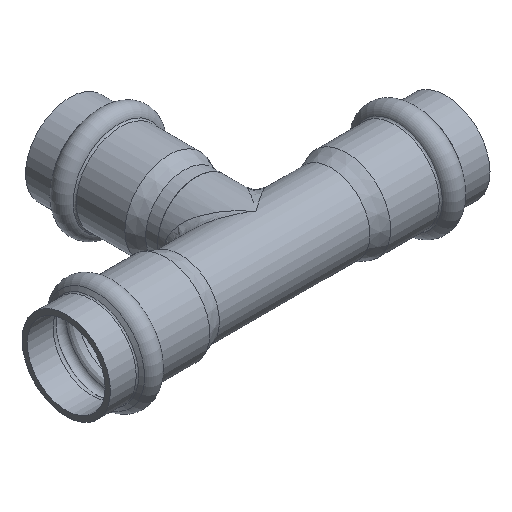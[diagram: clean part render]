
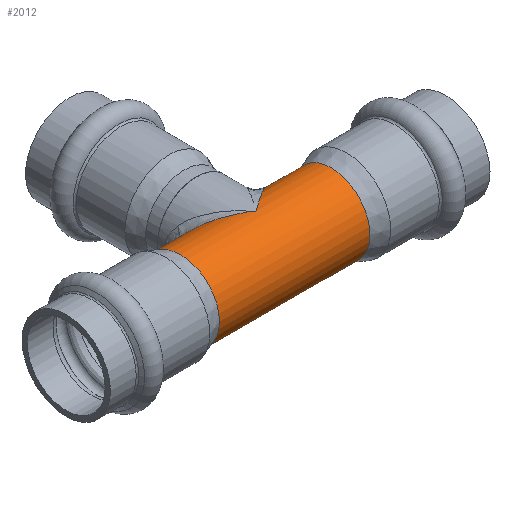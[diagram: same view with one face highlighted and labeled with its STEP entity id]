
A CAD part, isometric view. The second image highlights one B-rep face of the part: STEP entity #2012.
In plain terms, the highlighted cylindrical face has radius 11 mm (diameter 22 mm), a full revolution.
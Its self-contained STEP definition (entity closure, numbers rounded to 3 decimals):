
#1707=CARTESIAN_POINT('',(0.0,0.0,11.0));
#1708=VERTEX_POINT('',#1707);
#1709=CARTESIAN_POINT('',(0.0,0.0,-11.0));
#1710=VERTEX_POINT('',#1709);
#1711=CARTESIAN_POINT('',(0.0,0.0,0.0));
#1712=DIRECTION('',(-0.591,0.806,0.));
#1713=DIRECTION('',(0.806,0.591,0.0));
#1714=AXIS2_PLACEMENT_3D('',#1711,#1712,#1713);
#1715=ELLIPSE('',#1714,18.601,11.);
#1716=EDGE_CURVE('',#1708,#1710,#1715,.T.);
#1919=CARTESIAN_POINT('',(0.0,0.,0.0));
#1920=DIRECTION('',(0.591,0.806,0.));
#1921=DIRECTION('',(-0.806,0.591,0.0));
#1922=AXIS2_PLACEMENT_3D('',#1919,#1920,#1921);
#1923=ELLIPSE('',#1922,18.601,11.);
#1924=EDGE_CURVE('',#1710,#1708,#1923,.T.);
#1974=CARTESIAN_POINT('',(-21.408,11.,0.0));
#1975=VERTEX_POINT('',#1974);
#1976=CARTESIAN_POINT('',(-21.408,0.,0.0));
#1977=DIRECTION('',(1.0,0.0,0.0));
#1978=DIRECTION('',(0.0,1.0,0.0));
#1979=AXIS2_PLACEMENT_3D('',#1976,#1977,#1978);
#1980=CIRCLE('',#1979,11.);
#1981=EDGE_CURVE('',#1975,#1975,#1980,.T.);
#1989=CARTESIAN_POINT('',(0.0,0.0,0.0));
#1990=DIRECTION('',(1.0,0.,0.0));
#1991=DIRECTION('',(0.0,1.0,0.0));
#1992=AXIS2_PLACEMENT_3D('',#1989,#1990,#1991);
#1993=CYLINDRICAL_SURFACE('',#1992,11.);
#1994=ORIENTED_EDGE('',*,*,#1981,.T.);
#1995=EDGE_LOOP('',(#1994));
#1996=FACE_OUTER_BOUND('',#1995,.T.);
#1997=ORIENTED_EDGE('',*,*,#1716,.F.);
#1998=ORIENTED_EDGE('',*,*,#1924,.F.);
#1999=EDGE_LOOP('',(#1997,#1998));
#2000=FACE_BOUND('',#1999,.T.);
#2001=CARTESIAN_POINT('',(21.408,11.,0.0));
#2002=VERTEX_POINT('',#2001);
#2003=CARTESIAN_POINT('',(21.408,0.,0.0));
#2004=DIRECTION('',(1.0,0.0,0.0));
#2005=DIRECTION('',(0.0,1.0,0.0));
#2006=AXIS2_PLACEMENT_3D('',#2003,#2004,#2005);
#2007=CIRCLE('',#2006,11.);
#2008=EDGE_CURVE('',#2002,#2002,#2007,.T.);
#2009=ORIENTED_EDGE('',*,*,#2008,.F.);
#2010=EDGE_LOOP('',(#2009));
#2011=FACE_BOUND('',#2010,.T.);
#2012=ADVANCED_FACE('',(#1996,#2000,#2011),#1993,.T.);
